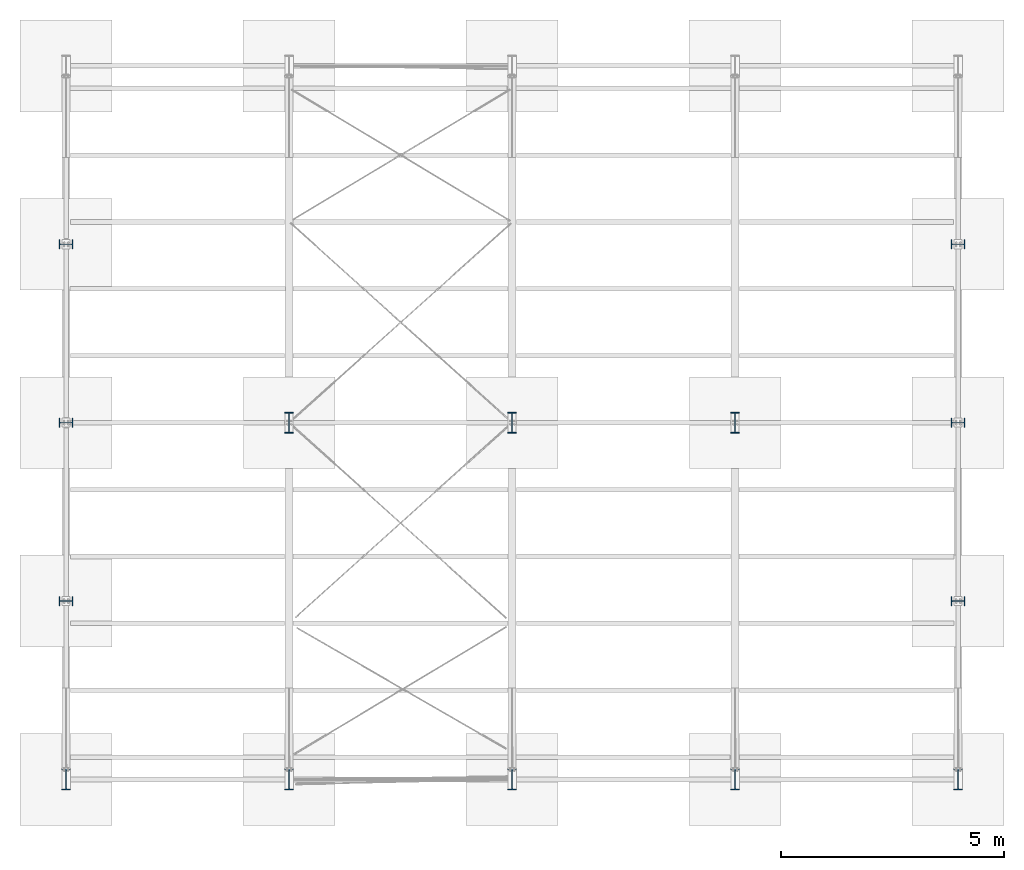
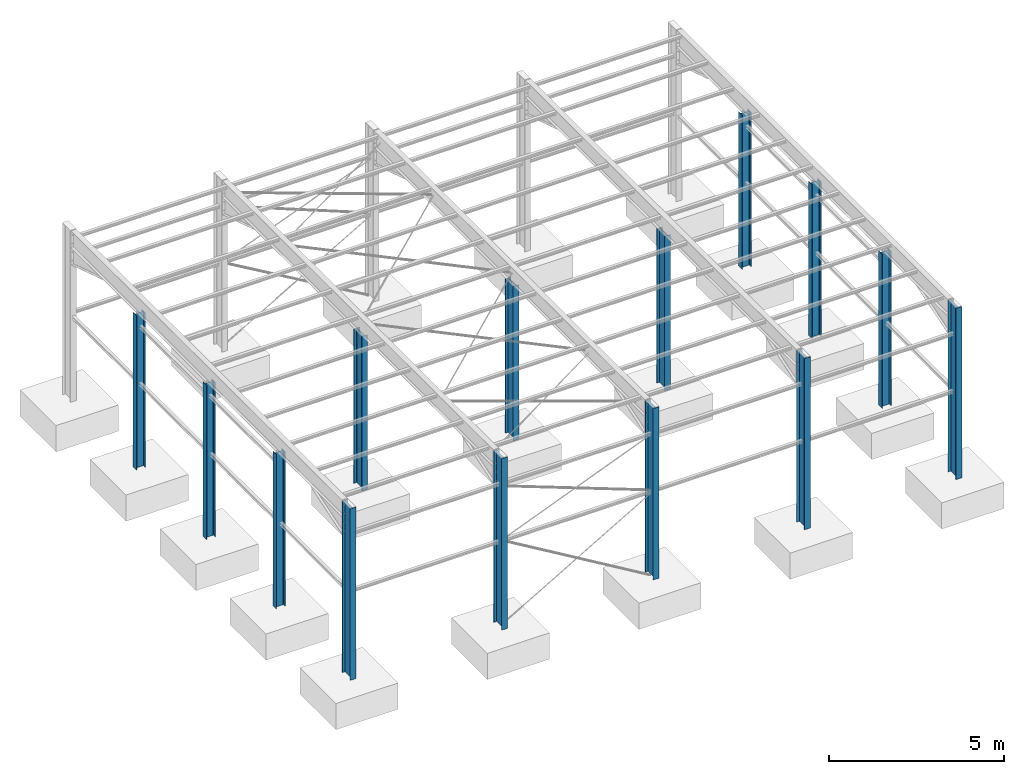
# Not in any storey, part 1 of 51: 14 columns, 48 openings.
"""IFC4 model written with IfcOpenShell, lengths in feet."""

from ifc_helpers import new_model, entity, si_unit, converted_unit, direction, frame, origin, origin_2d, origin_2d_with_axis, place, context, project, spatial, circle, i_section, extrude, clip, halfspace, material, type_object, element, save


model = new_model("IFC4")

# Units and contexts
model_context = context("Model", 3, precision=0.0001, world=origin(), true_north=direction((6.123233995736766e-17, 1.0)))
ifc_project = project(units=[converted_unit("LENGTHUNIT", "FOOT", entity("IfcLengthMeasure", 0.3048), si_unit("LENGTHUNIT", "METRE"), dimensions=[1, 0, 0, 0, 0, 0, 0]), converted_unit("AREAUNIT", "SQUARE INCH", entity("IfcAreaMeasure", 0.0006451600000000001), si_unit("AREAUNIT", "SQUARE_METRE"), dimensions=[2, 0, 0, 0, 0, 0, 0]), converted_unit("PLANEANGLEUNIT", "DEGREE", entity("IfcPlaneAngleMeasure", 0.017453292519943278), si_unit("PLANEANGLEUNIT", "RADIAN"), dimensions=[0, 0, 0, 0, 0, 0, 0]), si_unit("VOLUMEUNIT", "CUBIC_METRE")], contexts=[model_context])

# Site
site_placement = place(None, origin())
site = spatial("IfcSite", under=ifc_project, at=site_placement, Name="Default", CompositionType="ELEMENT")

# Column, openings
ifc_material = material(Name="Steel ASTM A992", Category="Metal")
column_type_1 = type_object("IfcColumnType", Name="W Shapes-Column:W18X65", PredefinedType="COLUMN", material=ifc_material)
column_1_placement = place(site_placement, frame((11.253736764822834, 5.455017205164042, 21.281038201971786), z_axis=(0.0, 0.0, 1.0), x_axis=(1.0, 0.0, 0.0)))
column_1 = element("IfcColumn", 1, at=column_1_placement, inside=site, type_object=column_type_1, material=ifc_material, Name="W Shapes-Column:W18X65", ObjectType="W18X65", context=model_context, shape_type="Clipping", body=[
    clip(extrude(i_section(OverallWidth=0.6325, OverallDepth=1.5333333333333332, WebThickness=0.0375, FlangeThickness=0.0625, FilletRadius=0.03333333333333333, at=origin_2d()), origin(), (0.0, 0.0, -1.0), 21.281038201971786), halfspace(frame((-11.253736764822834, -5.455017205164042, -1.6452147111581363), z_axis=(0.0, 0.0, -1.0), x_axis=(-1.0, 0.0, 0.0)), True)),
])
opening_1_placement = place(column_1_placement, frame((-0.14583333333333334, 0.7025262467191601, -4.073032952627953), z_axis=(0.0, 1.0, 0.0), x_axis=(-1.0, 0.0, 0.0)))
element("IfcOpeningElement", 2, at=opening_1_placement, cuts=column_1, ObjectType="Opening", context=model_context, shape_type="SweptSolid", body=[
    extrude(circle(Radius=0.03385744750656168, at=origin_2d_with_axis()), origin(), (0.0, 0.0, 1.0), 0.06578083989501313),
])
opening_2_placement = place(column_1_placement, frame((-0.14583333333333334, 0.7025262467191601, -5.05728492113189), z_axis=(0.0, 1.0, 0.0), x_axis=(-1.0, 0.0, 0.0)))
element("IfcOpeningElement", 3, at=opening_2_placement, cuts=column_1, ObjectType="Opening", context=model_context, shape_type="SweptSolid", body=[
    extrude(circle(Radius=0.03385744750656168, at=origin_2d_with_axis()), origin(), (0.0, 0.0, 1.0), 0.06578083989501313),
])
opening_3_placement = place(column_1_placement, frame((0.14583333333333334, 0.7025262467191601, -5.05728492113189), z_axis=(0.0, 1.0, 0.0), x_axis=(-1.0, 0.0, 0.0)))
element("IfcOpeningElement", 4, at=opening_3_placement, cuts=column_1, ObjectType="Opening", context=model_context, shape_type="SweptSolid", body=[
    extrude(circle(Radius=0.03385744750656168, at=origin_2d_with_axis()), origin(), (0.0, 0.0, 1.0), 0.06578083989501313),
])
opening_4_placement = place(column_1_placement, frame((-0.14583333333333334, 0.7025262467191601, -2.104529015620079), z_axis=(0.0, 1.0, 0.0), x_axis=(-1.0, 0.0, 0.0)))
element("IfcOpeningElement", 5, at=opening_4_placement, cuts=column_1, ObjectType="Opening", context=model_context, shape_type="SweptSolid", body=[
    extrude(circle(Radius=0.03385744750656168, at=origin_2d_with_axis()), origin(), (0.0, 0.0, 1.0), 0.06578083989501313),
])
opening_5_placement = place(column_1_placement, frame((0.14583333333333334, 0.7025262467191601, -4.073032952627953), z_axis=(0.0, 1.0, 0.0), x_axis=(-1.0, 0.0, 0.0)))
element("IfcOpeningElement", 6, at=opening_5_placement, cuts=column_1, ObjectType="Opening", context=model_context, shape_type="SweptSolid", body=[
    extrude(circle(Radius=0.03385744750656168, at=origin_2d_with_axis()), origin(), (0.0, 0.0, 1.0), 0.06578083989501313),
])
opening_6_placement = place(column_1_placement, frame((-0.14583333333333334, 0.7025262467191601, -3.0887809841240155), z_axis=(0.0, 1.0, 0.0), x_axis=(-1.0, 0.0, 0.0)))
element("IfcOpeningElement", 7, at=opening_6_placement, cuts=column_1, ObjectType="Opening", context=model_context, shape_type="SweptSolid", body=[
    extrude(circle(Radius=0.03385744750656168, at=origin_2d_with_axis()), origin(), (0.0, 0.0, 1.0), 0.06578083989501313),
])
opening_7_placement = place(column_1_placement, frame((0.14583333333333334, 0.7025262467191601, -2.104529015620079), z_axis=(0.0, 1.0, 0.0), x_axis=(-1.0, 0.0, 0.0)))
element("IfcOpeningElement", 8, at=opening_7_placement, cuts=column_1, ObjectType="Opening", context=model_context, shape_type="SweptSolid", body=[
    extrude(circle(Radius=0.03385744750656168, at=origin_2d_with_axis()), origin(), (0.0, 0.0, 1.0), 0.06578083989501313),
])
opening_8_placement = place(column_1_placement, frame((0.14583333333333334, 0.7025262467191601, -3.0887809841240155), z_axis=(0.0, 1.0, 0.0), x_axis=(-1.0, 0.0, 0.0)))
element("IfcOpeningElement", 9, at=opening_8_placement, cuts=column_1, ObjectType="Opening", context=model_context, shape_type="SweptSolid", body=[
    extrude(circle(Radius=0.03385744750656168, at=origin_2d_with_axis()), origin(), (0.0, 0.0, 1.0), 0.06578083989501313),
])

column_2_placement = place(site_placement, frame((27.657936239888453, 5.455017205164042, 21.281038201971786), z_axis=(0.0, 0.0, 1.0), x_axis=(1.0, 0.0, 0.0)))
column_2 = element("IfcColumn", 10, at=column_2_placement, inside=site, type_object=column_type_1, material=ifc_material, Name="W Shapes-Column:W18X65", ObjectType="W18X65", context=model_context, shape_type="Clipping", body=[
    clip(extrude(i_section(OverallWidth=0.6325, OverallDepth=1.5333333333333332, WebThickness=0.0375, FlangeThickness=0.0625, FilletRadius=0.03333333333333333, at=origin_2d()), origin(), (0.0, 0.0, -1.0), 21.281038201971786), halfspace(frame((-27.657936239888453, -5.455017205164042, -1.6452147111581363), z_axis=(0.0, 0.0, -1.0), x_axis=(-1.0, 0.0, 0.0)), True)),
])
opening_9_placement = place(column_2_placement, frame((-0.14583333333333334, 0.7025262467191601, -5.05728492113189), z_axis=(0.0, 1.0, 0.0), x_axis=(-1.0, 0.0, 0.0)))
element("IfcOpeningElement", 11, at=opening_9_placement, cuts=column_2, ObjectType="Opening", context=model_context, shape_type="SweptSolid", body=[
    extrude(circle(Radius=0.03385744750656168, at=origin_2d_with_axis()), origin(), (0.0, 0.0, 1.0), 0.06578083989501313),
])
opening_10_placement = place(column_2_placement, frame((-0.14583333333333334, 0.7025262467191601, -2.104529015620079), z_axis=(0.0, 1.0, 0.0), x_axis=(-1.0, 0.0, 0.0)))
element("IfcOpeningElement", 12, at=opening_10_placement, cuts=column_2, ObjectType="Opening", context=model_context, shape_type="SweptSolid", body=[
    extrude(circle(Radius=0.03385744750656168, at=origin_2d_with_axis()), origin(), (0.0, 0.0, 1.0), 0.06578083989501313),
])
opening_11_placement = place(column_2_placement, frame((0.14583333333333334, 0.7025262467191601, -4.073032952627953), z_axis=(0.0, 1.0, 0.0), x_axis=(-1.0, 0.0, 0.0)))
element("IfcOpeningElement", 13, at=opening_11_placement, cuts=column_2, ObjectType="Opening", context=model_context, shape_type="SweptSolid", body=[
    extrude(circle(Radius=0.03385744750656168, at=origin_2d_with_axis()), origin(), (0.0, 0.0, 1.0), 0.06578083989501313),
])
opening_12_placement = place(column_2_placement, frame((0.14583333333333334, 0.7025262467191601, -5.05728492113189), z_axis=(0.0, 1.0, 0.0), x_axis=(-1.0, 0.0, 0.0)))
element("IfcOpeningElement", 14, at=opening_12_placement, cuts=column_2, ObjectType="Opening", context=model_context, shape_type="SweptSolid", body=[
    extrude(circle(Radius=0.03385744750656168, at=origin_2d_with_axis()), origin(), (0.0, 0.0, 1.0), 0.06578083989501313),
])
opening_13_placement = place(column_2_placement, frame((0.14583333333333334, 0.7025262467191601, -3.0887809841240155), z_axis=(0.0, 1.0, 0.0), x_axis=(-1.0, 0.0, 0.0)))
element("IfcOpeningElement", 15, at=opening_13_placement, cuts=column_2, ObjectType="Opening", context=model_context, shape_type="SweptSolid", body=[
    extrude(circle(Radius=0.03385744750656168, at=origin_2d_with_axis()), origin(), (0.0, 0.0, 1.0), 0.06578083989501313),
])
opening_14_placement = place(column_2_placement, frame((-0.14583333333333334, 0.7025262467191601, -3.0887809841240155), z_axis=(0.0, 1.0, 0.0), x_axis=(-1.0, 0.0, 0.0)))
element("IfcOpeningElement", 16, at=opening_14_placement, cuts=column_2, ObjectType="Opening", context=model_context, shape_type="SweptSolid", body=[
    extrude(circle(Radius=0.03385744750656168, at=origin_2d_with_axis()), origin(), (0.0, 0.0, 1.0), 0.06578083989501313),
])
opening_15_placement = place(column_2_placement, frame((0.14583333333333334, 0.7025262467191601, -2.104529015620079), z_axis=(0.0, 1.0, 0.0), x_axis=(-1.0, 0.0, 0.0)))
element("IfcOpeningElement", 17, at=opening_15_placement, cuts=column_2, ObjectType="Opening", context=model_context, shape_type="SweptSolid", body=[
    extrude(circle(Radius=0.03385744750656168, at=origin_2d_with_axis()), origin(), (0.0, 0.0, 1.0), 0.06578083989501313),
])
opening_16_placement = place(column_2_placement, frame((-0.14583333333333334, 0.7025262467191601, -4.073032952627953), z_axis=(0.0, 1.0, 0.0), x_axis=(-1.0, 0.0, 0.0)))
element("IfcOpeningElement", 18, at=opening_16_placement, cuts=column_2, ObjectType="Opening", context=model_context, shape_type="SweptSolid", body=[
    extrude(circle(Radius=0.03385744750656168, at=origin_2d_with_axis()), origin(), (0.0, 0.0, 1.0), 0.06578083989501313),
])

column_3_placement = place(site_placement, frame((44.06213571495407, 5.455017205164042, 21.281038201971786), z_axis=(0.0, 0.0, 1.0), x_axis=(1.0, 0.0, 0.0)))
column_3 = element("IfcColumn", 19, at=column_3_placement, inside=site, type_object=column_type_1, material=ifc_material, Name="W Shapes-Column:W18X65", ObjectType="W18X65", context=model_context, shape_type="Clipping", body=[
    clip(extrude(i_section(OverallWidth=0.6325, OverallDepth=1.5333333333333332, WebThickness=0.0375, FlangeThickness=0.0625, FilletRadius=0.03333333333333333, at=origin_2d()), origin(), (0.0, 0.0, -1.0), 21.281038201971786), halfspace(frame((-44.06213571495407, -5.455017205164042, -1.6452147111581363), z_axis=(0.0, 0.0, -1.0), x_axis=(-1.0, 0.0, 0.0)), True)),
])
opening_17_placement = place(column_3_placement, frame((-0.14583333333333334, 0.7025262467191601, -4.073032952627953), z_axis=(0.0, 1.0, 0.0), x_axis=(-1.0, 0.0, 0.0)))
element("IfcOpeningElement", 20, at=opening_17_placement, cuts=column_3, ObjectType="Opening", context=model_context, shape_type="SweptSolid", body=[
    extrude(circle(Radius=0.03385744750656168, at=origin_2d_with_axis()), origin(), (0.0, 0.0, 1.0), 0.06578083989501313),
])
opening_18_placement = place(column_3_placement, frame((0.14583333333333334, 0.7025262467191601, -4.073032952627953), z_axis=(0.0, 1.0, 0.0), x_axis=(-1.0, 0.0, 0.0)))
element("IfcOpeningElement", 21, at=opening_18_placement, cuts=column_3, ObjectType="Opening", context=model_context, shape_type="SweptSolid", body=[
    extrude(circle(Radius=0.03385744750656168, at=origin_2d_with_axis()), origin(), (0.0, 0.0, 1.0), 0.06578083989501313),
])
opening_19_placement = place(column_3_placement, frame((0.14583333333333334, 0.7025262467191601, -2.104529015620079), z_axis=(0.0, 1.0, 0.0), x_axis=(-1.0, 0.0, 0.0)))
element("IfcOpeningElement", 22, at=opening_19_placement, cuts=column_3, ObjectType="Opening", context=model_context, shape_type="SweptSolid", body=[
    extrude(circle(Radius=0.03385744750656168, at=origin_2d_with_axis()), origin(), (0.0, 0.0, 1.0), 0.06578083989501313),
])
opening_20_placement = place(column_3_placement, frame((-0.14583333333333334, 0.7025262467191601, -3.0887809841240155), z_axis=(0.0, 1.0, 0.0), x_axis=(-1.0, 0.0, 0.0)))
element("IfcOpeningElement", 23, at=opening_20_placement, cuts=column_3, ObjectType="Opening", context=model_context, shape_type="SweptSolid", body=[
    extrude(circle(Radius=0.03385744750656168, at=origin_2d_with_axis()), origin(), (0.0, 0.0, 1.0), 0.06578083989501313),
])
opening_21_placement = place(column_3_placement, frame((0.14583333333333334, 0.7025262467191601, -5.05728492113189), z_axis=(0.0, 1.0, 0.0), x_axis=(-1.0, 0.0, 0.0)))
element("IfcOpeningElement", 24, at=opening_21_placement, cuts=column_3, ObjectType="Opening", context=model_context, shape_type="SweptSolid", body=[
    extrude(circle(Radius=0.03385744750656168, at=origin_2d_with_axis()), origin(), (0.0, 0.0, 1.0), 0.06578083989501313),
])
opening_22_placement = place(column_3_placement, frame((0.14583333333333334, 0.7025262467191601, -3.0887809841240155), z_axis=(0.0, 1.0, 0.0), x_axis=(-1.0, 0.0, 0.0)))
element("IfcOpeningElement", 25, at=opening_22_placement, cuts=column_3, ObjectType="Opening", context=model_context, shape_type="SweptSolid", body=[
    extrude(circle(Radius=0.03385744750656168, at=origin_2d_with_axis()), origin(), (0.0, 0.0, 1.0), 0.06578083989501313),
])
opening_23_placement = place(column_3_placement, frame((-0.14583333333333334, 0.7025262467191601, -2.104529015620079), z_axis=(0.0, 1.0, 0.0), x_axis=(-1.0, 0.0, 0.0)))
element("IfcOpeningElement", 26, at=opening_23_placement, cuts=column_3, ObjectType="Opening", context=model_context, shape_type="SweptSolid", body=[
    extrude(circle(Radius=0.03385744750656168, at=origin_2d_with_axis()), origin(), (0.0, 0.0, 1.0), 0.06578083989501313),
])
opening_24_placement = place(column_3_placement, frame((-0.14583333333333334, 0.7025262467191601, -5.05728492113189), z_axis=(0.0, 1.0, 0.0), x_axis=(-1.0, 0.0, 0.0)))
element("IfcOpeningElement", 27, at=opening_24_placement, cuts=column_3, ObjectType="Opening", context=model_context, shape_type="SweptSolid", body=[
    extrude(circle(Radius=0.03385744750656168, at=origin_2d_with_axis()), origin(), (0.0, 0.0, 1.0), 0.06578083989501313),
])

column_4_placement = place(site_placement, frame((60.46633519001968, 5.455017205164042, 21.281038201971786), z_axis=(0.0, 0.0, 1.0), x_axis=(1.0, 0.0, 0.0)))
column_4 = element("IfcColumn", 28, at=column_4_placement, inside=site, type_object=column_type_1, material=ifc_material, Name="W Shapes-Column:W18X65", ObjectType="W18X65", context=model_context, shape_type="Clipping", body=[
    clip(extrude(i_section(OverallWidth=0.6325, OverallDepth=1.5333333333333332, WebThickness=0.0375, FlangeThickness=0.0625, FilletRadius=0.03333333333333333, at=origin_2d()), origin(), (0.0, 0.0, -1.0), 21.281038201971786), halfspace(frame((-60.46633519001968, -5.455017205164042, -1.6452147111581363), z_axis=(0.0, 0.0, -1.0), x_axis=(-1.0, 0.0, 0.0)), True)),
])
opening_25_placement = place(column_4_placement, frame((0.14583333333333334, 0.7025262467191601, -3.0887809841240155), z_axis=(0.0, 1.0, 0.0), x_axis=(-1.0, 0.0, 0.0)))
element("IfcOpeningElement", 29, at=opening_25_placement, cuts=column_4, ObjectType="Opening", context=model_context, shape_type="SweptSolid", body=[
    extrude(circle(Radius=0.03385744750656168, at=origin_2d_with_axis()), origin(), (0.0, 0.0, 1.0), 0.06578083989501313),
])
opening_26_placement = place(column_4_placement, frame((-0.14583333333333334, 0.7025262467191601, -3.0887809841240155), z_axis=(0.0, 1.0, 0.0), x_axis=(-1.0, 0.0, 0.0)))
element("IfcOpeningElement", 30, at=opening_26_placement, cuts=column_4, ObjectType="Opening", context=model_context, shape_type="SweptSolid", body=[
    extrude(circle(Radius=0.03385744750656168, at=origin_2d_with_axis()), origin(), (0.0, 0.0, 1.0), 0.06578083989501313),
])
opening_27_placement = place(column_4_placement, frame((-0.14583333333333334, 0.7025262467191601, -2.104529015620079), z_axis=(0.0, 1.0, 0.0), x_axis=(-1.0, 0.0, 0.0)))
element("IfcOpeningElement", 31, at=opening_27_placement, cuts=column_4, ObjectType="Opening", context=model_context, shape_type="SweptSolid", body=[
    extrude(circle(Radius=0.03385744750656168, at=origin_2d_with_axis()), origin(), (0.0, 0.0, 1.0), 0.06578083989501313),
])
opening_28_placement = place(column_4_placement, frame((-0.14583333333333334, 0.7025262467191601, -4.073032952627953), z_axis=(0.0, 1.0, 0.0), x_axis=(-1.0, 0.0, 0.0)))
element("IfcOpeningElement", 32, at=opening_28_placement, cuts=column_4, ObjectType="Opening", context=model_context, shape_type="SweptSolid", body=[
    extrude(circle(Radius=0.03385744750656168, at=origin_2d_with_axis()), origin(), (0.0, 0.0, 1.0), 0.06578083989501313),
])
opening_29_placement = place(column_4_placement, frame((-0.14583333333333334, 0.7025262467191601, -5.05728492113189), z_axis=(0.0, 1.0, 0.0), x_axis=(-1.0, 0.0, 0.0)))
element("IfcOpeningElement", 33, at=opening_29_placement, cuts=column_4, ObjectType="Opening", context=model_context, shape_type="SweptSolid", body=[
    extrude(circle(Radius=0.03385744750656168, at=origin_2d_with_axis()), origin(), (0.0, 0.0, 1.0), 0.06578083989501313),
])
opening_30_placement = place(column_4_placement, frame((0.14583333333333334, 0.7025262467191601, -4.073032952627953), z_axis=(0.0, 1.0, 0.0), x_axis=(-1.0, 0.0, 0.0)))
element("IfcOpeningElement", 34, at=opening_30_placement, cuts=column_4, ObjectType="Opening", context=model_context, shape_type="SweptSolid", body=[
    extrude(circle(Radius=0.03385744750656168, at=origin_2d_with_axis()), origin(), (0.0, 0.0, 1.0), 0.06578083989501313),
])
opening_31_placement = place(column_4_placement, frame((0.14583333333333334, 0.7025262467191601, -5.05728492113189), z_axis=(0.0, 1.0, 0.0), x_axis=(-1.0, 0.0, 0.0)))
element("IfcOpeningElement", 35, at=opening_31_placement, cuts=column_4, ObjectType="Opening", context=model_context, shape_type="SweptSolid", body=[
    extrude(circle(Radius=0.03385744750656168, at=origin_2d_with_axis()), origin(), (0.0, 0.0, 1.0), 0.06578083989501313),
])
opening_32_placement = place(column_4_placement, frame((0.14583333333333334, 0.7025262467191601, -2.104529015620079), z_axis=(0.0, 1.0, 0.0), x_axis=(-1.0, 0.0, 0.0)))
element("IfcOpeningElement", 36, at=opening_32_placement, cuts=column_4, ObjectType="Opening", context=model_context, shape_type="SweptSolid", body=[
    extrude(circle(Radius=0.03385744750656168, at=origin_2d_with_axis()), origin(), (0.0, 0.0, 1.0), 0.06578083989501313),
])

column_5_placement = place(site_placement, frame((76.87053466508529, 5.455017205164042, 21.281038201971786), z_axis=(0.0, 0.0, 1.0), x_axis=(1.0, 0.0, 0.0)))
column_5 = element("IfcColumn", 37, at=column_5_placement, inside=site, type_object=column_type_1, material=ifc_material, Name="W Shapes-Column:W18X65", ObjectType="W18X65", context=model_context, shape_type="Clipping", body=[
    clip(clip(extrude(i_section(OverallWidth=0.6325, OverallDepth=1.5333333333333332, WebThickness=0.0375, FlangeThickness=0.0625, FilletRadius=0.03333333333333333, at=origin_2d()), origin(), (0.0, 0.0, -1.0), 21.281038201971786), halfspace(frame((-76.87053466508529, -5.455017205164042, -1.6452147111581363), z_axis=(0.0, 0.0, -1.0), x_axis=(-1.0, 0.0, 0.0)), True)), halfspace(frame((-76.87053466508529, -5.455017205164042, -1.6452147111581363), z_axis=(0.0, 0.0, -1.0), x_axis=(-1.0, 0.0, 0.0)), True)),
])
opening_33_placement = place(column_5_placement, frame((-0.14583333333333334, 0.7025262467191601, -4.073032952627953), z_axis=(0.0, 1.0, 0.0), x_axis=(-1.0, 0.0, 0.0)))
element("IfcOpeningElement", 38, at=opening_33_placement, cuts=column_5, ObjectType="Opening", context=model_context, shape_type="SweptSolid", body=[
    extrude(circle(Radius=0.03385744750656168, at=origin_2d_with_axis()), origin(), (0.0, 0.0, 1.0), 0.06578083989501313),
])
opening_34_placement = place(column_5_placement, frame((-0.14583333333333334, 0.7025262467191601, -4.073032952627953), z_axis=(0.0, 1.0, 0.0), x_axis=(-1.0, 0.0, 0.0)))
element("IfcOpeningElement", 39, at=opening_34_placement, cuts=column_5, ObjectType="Opening", context=model_context, shape_type="SweptSolid", body=[
    extrude(circle(Radius=0.03385744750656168, at=origin_2d_with_axis()), origin(), (0.0, 0.0, 1.0), 0.06578083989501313),
])
opening_35_placement = place(column_5_placement, frame((0.14583333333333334, 0.7025262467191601, -4.073032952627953), z_axis=(0.0, 1.0, 0.0), x_axis=(-1.0, 0.0, 0.0)))
element("IfcOpeningElement", 40, at=opening_35_placement, cuts=column_5, ObjectType="Opening", context=model_context, shape_type="SweptSolid", body=[
    extrude(circle(Radius=0.03385744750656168, at=origin_2d_with_axis()), origin(), (0.0, 0.0, 1.0), 0.06578083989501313),
])
opening_36_placement = place(column_5_placement, frame((0.14583333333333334, 0.7025262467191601, -5.05728492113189), z_axis=(0.0, 1.0, 0.0), x_axis=(-1.0, 0.0, 0.0)))
element("IfcOpeningElement", 41, at=opening_36_placement, cuts=column_5, ObjectType="Opening", context=model_context, shape_type="SweptSolid", body=[
    extrude(circle(Radius=0.03385744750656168, at=origin_2d_with_axis()), origin(), (0.0, 0.0, 1.0), 0.06578083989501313),
])
opening_37_placement = place(column_5_placement, frame((-0.14583333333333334, 0.7025262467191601, -2.104529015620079), z_axis=(0.0, 1.0, 0.0), x_axis=(-1.0, 0.0, 0.0)))
element("IfcOpeningElement", 42, at=opening_37_placement, cuts=column_5, ObjectType="Opening", context=model_context, shape_type="SweptSolid", body=[
    extrude(circle(Radius=0.03385744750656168, at=origin_2d_with_axis()), origin(), (0.0, 0.0, 1.0), 0.06578083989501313),
])
opening_38_placement = place(column_5_placement, frame((0.14583333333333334, 0.7025262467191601, -5.05728492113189), z_axis=(0.0, 1.0, 0.0), x_axis=(-1.0, 0.0, 0.0)))
element("IfcOpeningElement", 43, at=opening_38_placement, cuts=column_5, ObjectType="Opening", context=model_context, shape_type="SweptSolid", body=[
    extrude(circle(Radius=0.03385744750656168, at=origin_2d_with_axis()), origin(), (0.0, 0.0, 1.0), 0.06578083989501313),
])
opening_39_placement = place(column_5_placement, frame((-0.14583333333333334, 0.7025262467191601, -5.05728492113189), z_axis=(0.0, 1.0, 0.0), x_axis=(-1.0, 0.0, 0.0)))
element("IfcOpeningElement", 44, at=opening_39_placement, cuts=column_5, ObjectType="Opening", context=model_context, shape_type="SweptSolid", body=[
    extrude(circle(Radius=0.03385744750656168, at=origin_2d_with_axis()), origin(), (0.0, 0.0, 1.0), 0.06578083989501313),
])
opening_40_placement = place(column_5_placement, frame((-0.14583333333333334, 0.7025262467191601, -3.0887809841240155), z_axis=(0.0, 1.0, 0.0), x_axis=(-1.0, 0.0, 0.0)))
element("IfcOpeningElement", 45, at=opening_40_placement, cuts=column_5, ObjectType="Opening", context=model_context, shape_type="SweptSolid", body=[
    extrude(circle(Radius=0.03385744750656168, at=origin_2d_with_axis()), origin(), (0.0, 0.0, 1.0), 0.06578083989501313),
])
opening_41_placement = place(column_5_placement, frame((0.14583333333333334, 0.7025262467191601, -3.0887809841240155), z_axis=(0.0, 1.0, 0.0), x_axis=(-1.0, 0.0, 0.0)))
element("IfcOpeningElement", 46, at=opening_41_placement, cuts=column_5, ObjectType="Opening", context=model_context, shape_type="SweptSolid", body=[
    extrude(circle(Radius=0.03385744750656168, at=origin_2d_with_axis()), origin(), (0.0, 0.0, 1.0), 0.06578083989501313),
])
opening_42_placement = place(column_5_placement, frame((0.14583333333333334, 0.7025262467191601, -4.073032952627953), z_axis=(0.0, 1.0, 0.0), x_axis=(-1.0, 0.0, 0.0)))
element("IfcOpeningElement", 47, at=opening_42_placement, cuts=column_5, ObjectType="Opening", context=model_context, shape_type="SweptSolid", body=[
    extrude(circle(Radius=0.03385744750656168, at=origin_2d_with_axis()), origin(), (0.0, 0.0, 1.0), 0.06578083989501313),
])
opening_43_placement = place(column_5_placement, frame((-0.14583333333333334, 0.7025262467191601, -2.104529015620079), z_axis=(0.0, 1.0, 0.0), x_axis=(-1.0, 0.0, 0.0)))
element("IfcOpeningElement", 48, at=opening_43_placement, cuts=column_5, ObjectType="Opening", context=model_context, shape_type="SweptSolid", body=[
    extrude(circle(Radius=0.03385744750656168, at=origin_2d_with_axis()), origin(), (0.0, 0.0, 1.0), 0.06578083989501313),
])
opening_44_placement = place(column_5_placement, frame((-0.14583333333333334, 0.7025262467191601, -5.05728492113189), z_axis=(0.0, 1.0, 0.0), x_axis=(-1.0, 0.0, 0.0)))
element("IfcOpeningElement", 49, at=opening_44_placement, cuts=column_5, ObjectType="Opening", context=model_context, shape_type="SweptSolid", body=[
    extrude(circle(Radius=0.03385744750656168, at=origin_2d_with_axis()), origin(), (0.0, 0.0, 1.0), 0.06578083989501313),
])
opening_45_placement = place(column_5_placement, frame((-0.14583333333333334, 0.7025262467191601, -3.0887809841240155), z_axis=(0.0, 1.0, 0.0), x_axis=(-1.0, 0.0, 0.0)))
element("IfcOpeningElement", 50, at=opening_45_placement, cuts=column_5, ObjectType="Opening", context=model_context, shape_type="SweptSolid", body=[
    extrude(circle(Radius=0.03385744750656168, at=origin_2d_with_axis()), origin(), (0.0, 0.0, 1.0), 0.06578083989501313),
])
opening_46_placement = place(column_5_placement, frame((0.14583333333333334, 0.7025262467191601, -2.104529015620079), z_axis=(0.0, 1.0, 0.0), x_axis=(-1.0, 0.0, 0.0)))
element("IfcOpeningElement", 51, at=opening_46_placement, cuts=column_5, ObjectType="Opening", context=model_context, shape_type="SweptSolid", body=[
    extrude(circle(Radius=0.03385744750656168, at=origin_2d_with_axis()), origin(), (0.0, 0.0, 1.0), 0.06578083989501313),
])
opening_47_placement = place(column_5_placement, frame((0.14583333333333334, 0.7025262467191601, -2.104529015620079), z_axis=(0.0, 1.0, 0.0), x_axis=(-1.0, 0.0, 0.0)))
element("IfcOpeningElement", 52, at=opening_47_placement, cuts=column_5, ObjectType="Opening", context=model_context, shape_type="SweptSolid", body=[
    extrude(circle(Radius=0.03385744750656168, at=origin_2d_with_axis()), origin(), (0.0, 0.0, 1.0), 0.06578083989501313),
])
opening_48_placement = place(column_5_placement, frame((0.14583333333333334, 0.7025262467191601, -3.0887809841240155), z_axis=(0.0, 1.0, 0.0), x_axis=(-1.0, 0.0, 0.0)))
element("IfcOpeningElement", 53, at=opening_48_placement, cuts=column_5, ObjectType="Opening", context=model_context, shape_type="SweptSolid", body=[
    extrude(circle(Radius=0.03385744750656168, at=origin_2d_with_axis()), origin(), (0.0, 0.0, 1.0), 0.06578083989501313),
])

# Columns
column_6_placement = place(site_placement, frame((27.657936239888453, 31.701736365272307, 21.281038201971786), z_axis=(0.0, 0.0, 1.0), x_axis=(1.0, 0.0, 0.0)))
element("IfcColumn", 54, at=column_6_placement, inside=site, type_object=column_type_1, material=ifc_material, Name="W Shapes-Column:W18X65", ObjectType="W18X65", context=model_context, shape_type="Clipping", body=[
    clip(extrude(i_section(OverallWidth=0.6325, OverallDepth=1.5333333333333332, WebThickness=0.0375, FlangeThickness=0.0625, FilletRadius=0.03333333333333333, at=origin_2d()), origin(), (0.0, 0.0, -1.0), 21.281038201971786), halfspace(frame((-27.657936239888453, -31.701736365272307, -3.604335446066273), z_axis=(0.0, 0.0, -1.0), x_axis=(-1.0, 0.0, 0.0)), True)),
])
column_7_placement = place(site_placement, frame((44.06213571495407, 31.701736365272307, 21.281038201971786), z_axis=(0.0, 0.0, 1.0), x_axis=(1.0, 0.0, 0.0)))
element("IfcColumn", 55, at=column_7_placement, inside=site, type_object=column_type_1, material=ifc_material, Name="W Shapes-Column:W18X65", ObjectType="W18X65", context=model_context, shape_type="Clipping", body=[
    clip(extrude(i_section(OverallWidth=0.6325, OverallDepth=1.5333333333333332, WebThickness=0.0375, FlangeThickness=0.0625, FilletRadius=0.03333333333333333, at=origin_2d()), origin(), (0.0, 0.0, -1.0), 21.281038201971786), halfspace(frame((-44.06213571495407, -31.701736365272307, -3.604335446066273), z_axis=(0.0, 0.0, -1.0), x_axis=(-1.0, 0.0, 0.0)), True)),
])
column_8_placement = place(site_placement, frame((60.46633519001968, 31.701736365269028, 21.281038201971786), z_axis=(0.0, 0.0, 1.0), x_axis=(1.0, 0.0, 0.0)))
element("IfcColumn", 56, at=column_8_placement, inside=site, type_object=column_type_1, material=ifc_material, Name="W Shapes-Column:W18X65", ObjectType="W18X65", context=model_context, shape_type="Clipping", body=[
    clip(extrude(i_section(OverallWidth=0.6325, OverallDepth=1.5333333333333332, WebThickness=0.0375, FlangeThickness=0.0625, FilletRadius=0.03333333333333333, at=origin_2d()), origin(), (0.0, 0.0, -1.0), 21.281038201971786), halfspace(frame((-60.46633519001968, -31.701736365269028, -3.604335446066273), z_axis=(0.0, 0.0, -1.0), x_axis=(-1.0, 0.0, 0.0)), True)),
])
column_type_2 = type_object("IfcColumnType", Name="W Shapes-Column:W12X40", PredefinedType="COLUMN", material=ifc_material)
column_9_placement = place(site_placement, frame((11.253736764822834, 44.82509594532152, 20.77856807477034), z_axis=(0.0, 0.0, 1.0), x_axis=(0.0, -1.0, 0.0)))
element("IfcColumn", 57, at=column_9_placement, inside=site, type_object=column_type_2, material=ifc_material, Name="W Shapes-Column:W12X40", ObjectType="W12X40", context=model_context, shape_type="Clipping", body=[
    clip(extrude(i_section(OverallWidth=0.6675, OverallDepth=0.9916666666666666, WebThickness=0.024583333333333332, FlangeThickness=0.042916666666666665, FilletRadius=0.042083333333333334, at=origin_2d()), origin(), (0.0, 0.0, -1.0), 20.77856807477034), halfspace(frame((44.82509594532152, -11.253736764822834, -3.1018653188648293), z_axis=(0.0, 0.0, -1.0), x_axis=(0.0, -1.0, 0.0)), True)),
])
column_10_placement = place(site_placement, frame((11.253736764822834, 31.701736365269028, 20.77856807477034), z_axis=(0.0, 0.0, 1.0), x_axis=(0.0, -1.0, 0.0)))
element("IfcColumn", 58, at=column_10_placement, inside=site, type_object=column_type_2, material=ifc_material, Name="W Shapes-Column:W12X40", ObjectType="W12X40", context=model_context, shape_type="Clipping", body=[
    clip(extrude(i_section(OverallWidth=0.6675, OverallDepth=0.9916666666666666, WebThickness=0.024583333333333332, FlangeThickness=0.042916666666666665, FilletRadius=0.042083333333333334, at=origin_2d()), origin(), (0.0, 0.0, -1.0), 20.77856807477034), halfspace(frame((31.701736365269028, -11.253736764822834, -3.1018653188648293), z_axis=(0.0, 0.0, -1.0), x_axis=(0.0, -1.0, 0.0)), True)),
])
column_11_placement = place(site_placement, frame((11.253736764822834, 18.578376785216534, 20.77856807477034), z_axis=(0.0, 0.0, 1.0), x_axis=(0.0, -1.0, 0.0)))
element("IfcColumn", 59, at=column_11_placement, inside=site, type_object=column_type_2, material=ifc_material, Name="W Shapes-Column:W12X40", ObjectType="W12X40", context=model_context, shape_type="Clipping", body=[
    clip(extrude(i_section(OverallWidth=0.6675, OverallDepth=0.9916666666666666, WebThickness=0.024583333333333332, FlangeThickness=0.042916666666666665, FilletRadius=0.042083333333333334, at=origin_2d()), origin(), (0.0, 0.0, -1.0), 20.77856807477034), halfspace(frame((18.578376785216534, -11.253736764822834, -3.1018653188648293), z_axis=(0.0, 0.0, -1.0), x_axis=(0.0, -1.0, 0.0)), True)),
])
column_12_placement = place(site_placement, frame((76.87053466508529, 18.578376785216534, 20.77856807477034), z_axis=(0.0, 0.0, 1.0), x_axis=(0.0, -1.0, 0.0)))
element("IfcColumn", 60, at=column_12_placement, inside=site, type_object=column_type_2, material=ifc_material, Name="W Shapes-Column:W12X40", ObjectType="W12X40", context=model_context, shape_type="Clipping", body=[
    clip(extrude(i_section(OverallWidth=0.6675, OverallDepth=0.9916666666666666, WebThickness=0.024583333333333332, FlangeThickness=0.042916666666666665, FilletRadius=0.042083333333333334, at=origin_2d()), origin(), (0.0, 0.0, -1.0), 20.77856807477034), halfspace(frame((18.578376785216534, -76.87053466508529, -3.1018653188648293), z_axis=(0.0, 0.0, -1.0), x_axis=(0.0, -1.0, 0.0)), True)),
])
column_13_placement = place(site_placement, frame((76.87053466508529, 31.701736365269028, 20.77856807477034), z_axis=(0.0, 0.0, 1.0), x_axis=(0.0, -1.0, 0.0)))
element("IfcColumn", 61, at=column_13_placement, inside=site, type_object=column_type_2, material=ifc_material, Name="W Shapes-Column:W12X40", ObjectType="W12X40", context=model_context, shape_type="Clipping", body=[
    clip(extrude(i_section(OverallWidth=0.6675, OverallDepth=0.9916666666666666, WebThickness=0.024583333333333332, FlangeThickness=0.042916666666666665, FilletRadius=0.042083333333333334, at=origin_2d()), origin(), (0.0, 0.0, -1.0), 20.77856807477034), halfspace(frame((31.701736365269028, -76.87053466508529, -3.1018653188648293), z_axis=(0.0, 0.0, -1.0), x_axis=(0.0, -1.0, 0.0)), True)),
])
column_14_placement = place(site_placement, frame((76.87053466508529, 44.82509594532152, 20.77856807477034), z_axis=(0.0, 0.0, 1.0), x_axis=(0.0, -1.0, 0.0)))
element("IfcColumn", 62, at=column_14_placement, inside=site, type_object=column_type_2, material=ifc_material, Name="W Shapes-Column:W12X40", ObjectType="W12X40", context=model_context, shape_type="Clipping", body=[
    clip(extrude(i_section(OverallWidth=0.6675, OverallDepth=0.9916666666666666, WebThickness=0.024583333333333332, FlangeThickness=0.042916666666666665, FilletRadius=0.042083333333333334, at=origin_2d()), origin(), (0.0, 0.0, -1.0), 20.77856807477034), halfspace(frame((44.82509594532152, -76.87053466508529, -3.1018653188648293), z_axis=(0.0, 0.0, -1.0), x_axis=(0.0, -1.0, 0.0)), True)),
])

save(model, "model.ifc")
